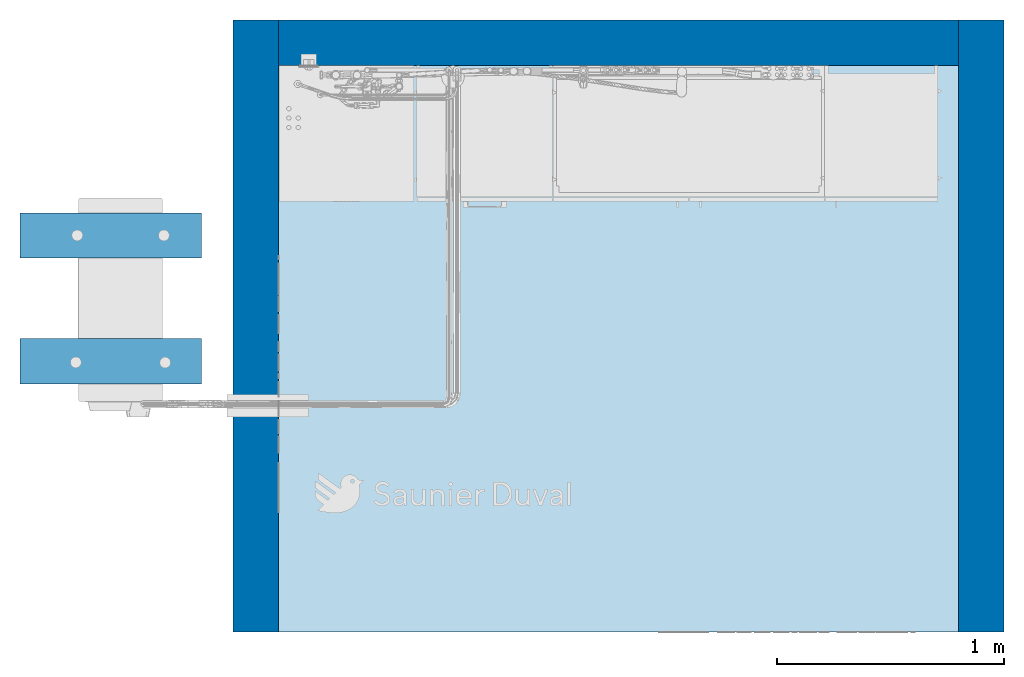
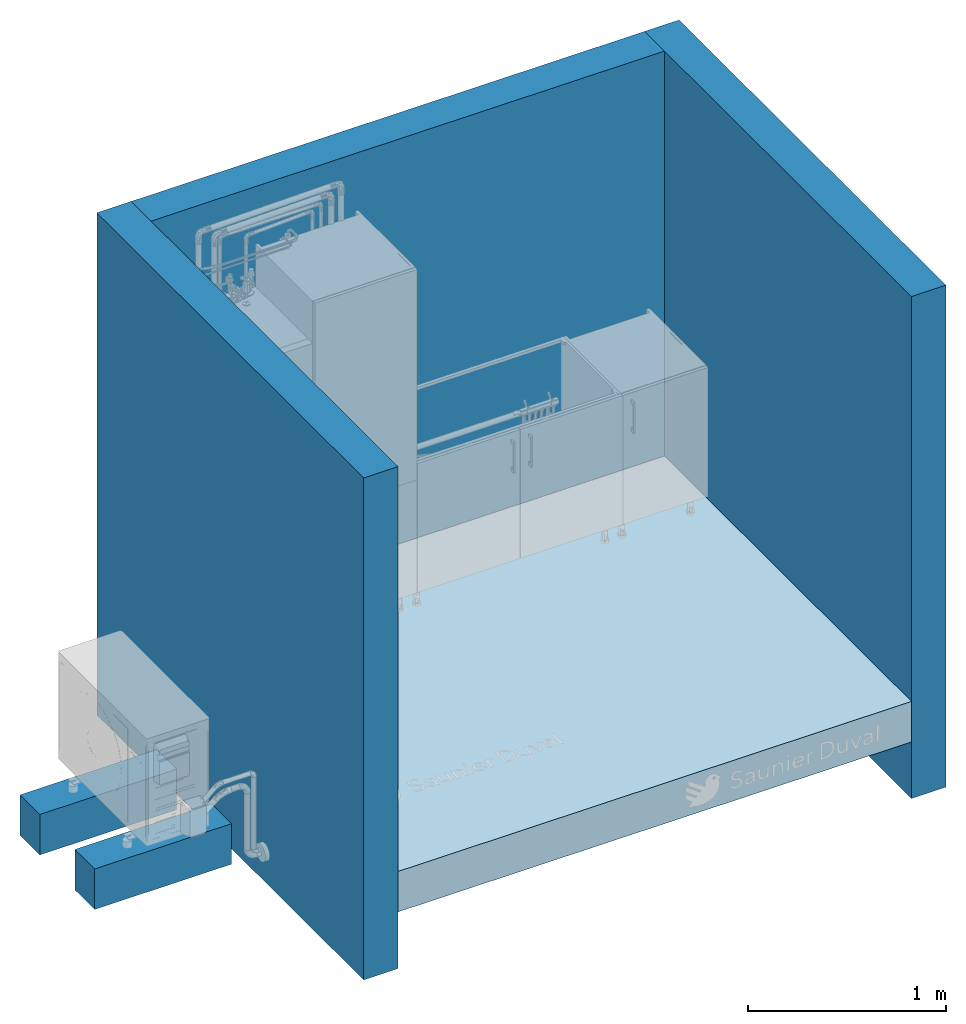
# One storey, part 1 of 30: 3 slabs, 3 walls, 2 openings.
"""IFC2X3 building model written with IfcOpenShell, lengths in metres."""

from ifc_helpers import new_model, entity, si_unit, converted_unit, derived_unit, direction, frame, frame_2d, origin, origin_2d_with_axis, place, context, subcontext, project, spatial, circle_curve, parameter, trimmed, segment, composite_curve, rectangle, circle, outline, extrude, material, layer, layer_set, layer_usage, type_object, element, save


model = new_model("IFC2X3")

# Units and contexts
model_context = context("Model", 3, precision=1e-05, world=origin(), true_north=direction((6.123031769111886e-17, 1.0)))
body_context = subcontext(model_context, "Body", "Model", "MODEL_VIEW")
ifc_project = project(units=[si_unit("LENGTHUNIT", "METRE"), si_unit("AREAUNIT", "SQUARE_METRE"), si_unit("VOLUMEUNIT", "CUBIC_METRE"), converted_unit("PLANEANGLEUNIT", "DEGREE", entity("IfcPlaneAngleMeasure", 0.017453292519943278), si_unit("PLANEANGLEUNIT", "RADIAN"), dimensions=[0, 0, 0, 0, 0, 0, 0]), si_unit("MASSUNIT", "GRAM", prefix="KILO"), derived_unit("MASSDENSITYUNIT", [(si_unit("MASSUNIT", "GRAM", prefix="KILO"), 1), (si_unit("LENGTHUNIT", "METRE"), -3)]), derived_unit("IONCONCENTRATIONUNIT", [(si_unit("MASSUNIT", "GRAM", prefix="KILO"), 1), (si_unit("LENGTHUNIT", "METRE"), -3)]), derived_unit("MOMENTOFINERTIAUNIT", [(si_unit("LENGTHUNIT", "METRE"), 4)]), si_unit("TIMEUNIT", "SECOND"), si_unit("FREQUENCYUNIT", "HERTZ"), si_unit("THERMODYNAMICTEMPERATUREUNIT", "DEGREE_CELSIUS"), derived_unit("THERMALTRANSMITTANCEUNIT", [(si_unit("MASSUNIT", "GRAM", prefix="KILO"), 1), (si_unit("THERMODYNAMICTEMPERATUREUNIT", "KELVIN"), -1), (si_unit("TIMEUNIT", "SECOND"), -3)]), derived_unit("THERMALCONDUCTANCEUNIT", [(si_unit("MASSUNIT", "GRAM", prefix="KILO"), 1), (si_unit("THERMODYNAMICTEMPERATUREUNIT", "KELVIN"), -1), (si_unit("TIMEUNIT", "SECOND"), -3), (si_unit("LENGTHUNIT", "METRE"), 1)]), derived_unit("VOLUMETRICFLOWRATEUNIT", [(si_unit("LENGTHUNIT", "METRE", prefix="DECI"), 3), (si_unit("TIMEUNIT", "SECOND"), -1)]), derived_unit("MASSFLOWRATEUNIT", [(si_unit("MASSUNIT", "GRAM", prefix="KILO"), 1), (si_unit("TIMEUNIT", "SECOND"), -1)]), derived_unit("ROTATIONALFREQUENCYUNIT", [(si_unit("TIMEUNIT", "SECOND"), -1)]), si_unit("ELECTRICCURRENTUNIT", "AMPERE"), si_unit("ELECTRICVOLTAGEUNIT", "VOLT"), si_unit("POWERUNIT", "WATT"), si_unit("FORCEUNIT", "NEWTON", prefix="KILO"), si_unit("ILLUMINANCEUNIT", "LUX"), si_unit("LUMINOUSFLUXUNIT", "LUMEN"), si_unit("LUMINOUSINTENSITYUNIT", "CANDELA"), si_unit("ENERGYUNIT", "JOULE"), derived_unit("USERDEFINED", [(si_unit("MASSUNIT", "GRAM", prefix="KILO"), -1), (si_unit("LENGTHUNIT", "METRE"), -2), (si_unit("TIMEUNIT", "SECOND"), 3), (si_unit("LUMINOUSFLUXUNIT", "LUMEN"), 1)]), derived_unit("USERDEFINED", [(si_unit("MASSUNIT", "GRAM", prefix="KILO"), 1), (si_unit("TIMEUNIT", "SECOND"), -3), (si_unit("LENGTHUNIT", "METRE"), 3), (si_unit("ELECTRICCURRENTUNIT", "AMPERE"), -2)]), derived_unit("SOUNDPOWERUNIT", [(si_unit("MASSUNIT", "GRAM", prefix="KILO"), 1), (si_unit("TIMEUNIT", "SECOND"), -3), (si_unit("LENGTHUNIT", "METRE"), 2)]), derived_unit("SOUNDPRESSUREUNIT", [(si_unit("MASSUNIT", "GRAM", prefix="KILO"), 1), (si_unit("LENGTHUNIT", "METRE"), -1), (si_unit("TIMEUNIT", "SECOND"), -2)]), derived_unit("LINEARVELOCITYUNIT", [(si_unit("LENGTHUNIT", "METRE"), 1), (si_unit("TIMEUNIT", "SECOND"), -1)]), si_unit("PRESSUREUNIT", "PASCAL"), derived_unit("USERDEFINED", [(si_unit("MASSUNIT", "GRAM", prefix="KILO"), 1), (si_unit("LENGTHUNIT", "METRE"), -2), (si_unit("TIMEUNIT", "SECOND"), -2)]), derived_unit("LINEARFORCEUNIT", [(si_unit("MASSUNIT", "GRAM", prefix="KILO"), 1), (si_unit("TIMEUNIT", "SECOND"), -2)]), derived_unit("PLANARFORCEUNIT", [(si_unit("MASSUNIT", "GRAM", prefix="KILO"), 1), (si_unit("LENGTHUNIT", "METRE"), -1), (si_unit("TIMEUNIT", "SECOND"), -2)]), derived_unit("SPECIFICHEATCAPACITYUNIT", [(si_unit("THERMODYNAMICTEMPERATUREUNIT", "KELVIN"), -1), (si_unit("LENGTHUNIT", "METRE"), 2), (si_unit("TIMEUNIT", "SECOND"), -2)]), derived_unit("HEATFLUXDENSITYUNIT", [(si_unit("MASSUNIT", "GRAM", prefix="KILO"), 1), (si_unit("TIMEUNIT", "SECOND"), -3)]), derived_unit("HEATINGVALUEUNIT", [(si_unit("LENGTHUNIT", "METRE"), 2), (si_unit("TIMEUNIT", "SECOND"), -2)]), derived_unit("VAPORPERMEABILITYUNIT", [(si_unit("LENGTHUNIT", "METRE"), -1), (si_unit("TIMEUNIT", "SECOND"), 1)]), derived_unit("DYNAMICVISCOSITYUNIT", [(si_unit("MASSUNIT", "GRAM", prefix="KILO"), 1), (si_unit("TIMEUNIT", "SECOND"), -1), (si_unit("LENGTHUNIT", "METRE"), -1)]), derived_unit("THERMALEXPANSIONCOEFFICIENTUNIT", [(si_unit("THERMODYNAMICTEMPERATUREUNIT", "KELVIN"), -1)]), derived_unit("MODULUSOFELASTICITYUNIT", [(si_unit("MASSUNIT", "GRAM", prefix="KILO"), 1), (si_unit("LENGTHUNIT", "METRE"), -1), (si_unit("TIMEUNIT", "SECOND"), -2)]), derived_unit("ISOTHERMALMOISTURECAPACITYUNIT", [(si_unit("MASSUNIT", "GRAM", prefix="KILO"), -1), (si_unit("LENGTHUNIT", "METRE"), 3)]), derived_unit("MOISTUREDIFFUSIVITYUNIT", [(si_unit("TIMEUNIT", "SECOND"), -1), (si_unit("LENGTHUNIT", "METRE"), 2)]), derived_unit("MASSPERLENGTHUNIT", [(si_unit("MASSUNIT", "GRAM", prefix="KILO"), 1), (si_unit("LENGTHUNIT", "METRE"), -1)]), derived_unit("THERMALRESISTANCEUNIT", [(si_unit("MASSUNIT", "GRAM", prefix="KILO"), -1), (si_unit("TIMEUNIT", "SECOND"), 3), (si_unit("THERMODYNAMICTEMPERATUREUNIT", "KELVIN"), 1)]), derived_unit("ACCELERATIONUNIT", [(si_unit("LENGTHUNIT", "METRE"), 1), (si_unit("TIMEUNIT", "SECOND"), -2)]), derived_unit("ANGULARVELOCITYUNIT", [(si_unit("TIMEUNIT", "SECOND"), -1), (si_unit("PLANEANGLEUNIT", "RADIAN"), 1)]), derived_unit("LINEARSTIFFNESSUNIT", [(si_unit("MASSUNIT", "GRAM", prefix="KILO"), 1), (si_unit("TIMEUNIT", "SECOND"), -2)]), derived_unit("WARPINGCONSTANTUNIT", [(si_unit("LENGTHUNIT", "METRE"), 6)]), derived_unit("LINEARMOMENTUNIT", [(si_unit("MASSUNIT", "GRAM", prefix="KILO"), 1), (si_unit("LENGTHUNIT", "METRE"), 1), (si_unit("TIMEUNIT", "SECOND"), -2)]), derived_unit("TORQUEUNIT", [(si_unit("MASSUNIT", "GRAM", prefix="KILO"), 1), (si_unit("LENGTHUNIT", "METRE"), 2), (si_unit("TIMEUNIT", "SECOND"), -2)])], contexts=[model_context])

# Site, building, storey
site_placement = place(None, origin())
site = spatial("IfcSite", under=ifc_project, at=site_placement, Name="Default", CompositionType="ELEMENT")
building_placement = place(site_placement, origin())
building = spatial("IfcBuilding", under=site, at=building_placement, CompositionType="ELEMENT")
storey_placement = place(building_placement, origin())
storey = spatial("IfcBuildingStorey", under=building, at=storey_placement, Name="Niveau 0", CompositionType="ELEMENT", Elevation=-1.949160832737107e-14)

# Slab, opening
ifc_material_1 = material(Name="Maçonnerie - Béton")
ifc_layer_1 = layer(ifc_material_1, 0.24999999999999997)
ifc_layer_set_1 = layer_set([ifc_layer_1], Name="Sol:Dalle en béton - 250 mm")
ifc_layer_usage_1 = layer_usage(ifc_layer_set_1, "AXIS3", "POSITIVE", 0.0)
slab_type = type_object("IfcSlabType", Name="Sol:Dalle en béton - 250 mm", PredefinedType="FLOOR", material=ifc_layer_set_1)
slab_1_placement = place(storey_placement, frame((-20.61554113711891, 0.36902647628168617, -0.25)))
slab_1 = element("IfcSlab", 1, at=slab_1_placement, inside=storey, type_object=slab_type, material=ifc_layer_usage_1, Name="Sol:Dalle en béton - 250 mm", ObjectType="Sol:Dalle en béton - 250 mm", PredefinedType="FLOOR", context=body_context, shape_type="SweptSolid", body=[
    extrude(rectangle(XDim=2.4994999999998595, YDim=2.9989999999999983, at=frame_2d((0.0, 0.0), x_axis=(0.0, 1.0))), frame((1.49950000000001, 1.2497499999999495, 0.24999999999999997), z_axis=(0.0, 0.0, -1.0), x_axis=(-1.0, 0.0, 0.0)), (0.0, 0.0, 1.0), 0.24999999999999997),
])
opening_1_placement = place(slab_1_placement, origin())
element("IfcOpeningElement", 2, at=opening_1_placement, cuts=slab_1, Name="Sol:Dalle en béton - 250 mm:634", ObjectType="Opening", context=body_context, shape_type="SweptSolid", body=[
    extrude(circle(Radius=0.04999999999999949, at=frame_2d((-3.4325337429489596e-30, -5.414335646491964e-16), x_axis=(1.0, 0.0))), frame((0.7692432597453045, 2.447860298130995, 0.24999999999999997), z_axis=(0.0, 0.0, -1.0), x_axis=(-1.0, 0.0, 0.0)), (0.0, 0.0, 1.0), 0.24999999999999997),
])

# Slabs
ifc_layer_usage_2 = layer_usage(ifc_layer_set_1, "AXIS3", "POSITIVE", 0.0)
slab_2_placement = place(storey_placement, origin())
element("IfcSlab", 3, at=slab_2_placement, inside=storey, type_object=slab_type, material=ifc_layer_usage_2, Name="Sol:Dalle en béton - 250 mm", ObjectType="Sol:Dalle en béton - 250 mm", PredefinedType="FLOOR", context=body_context, shape_type="SweptSolid", body=[
    extrude(rectangle(XDim=0.19999999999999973, YDim=0.8, at=frame_2d((4.0245584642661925e-16, -2.1649348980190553e-15), x_axis=(1.0, 0.0))), frame((-21.355885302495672, 2.1192559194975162, -0.24999999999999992), z_axis=(0.0, 0.0, -1.0), x_axis=(0.0, 1.0, 0.0)), (0.0, 0.0, 1.0), 0.24999999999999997),
])
ifc_layer_usage_3 = layer_usage(ifc_layer_set_1, "AXIS3", "POSITIVE", 0.0)
slab_3_placement = place(storey_placement, origin())
element("IfcSlab", 4, at=slab_3_placement, inside=storey, type_object=slab_type, material=ifc_layer_usage_3, Name="Sol:Dalle en béton - 250 mm", ObjectType="Sol:Dalle en béton - 250 mm", PredefinedType="FLOOR", context=body_context, shape_type="SweptSolid", body=[
    extrude(rectangle(XDim=0.19999999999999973, YDim=0.8, at=frame_2d((1.3877787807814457e-16, -2.1649348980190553e-15), x_axis=(1.0, 0.0))), frame((-21.35588530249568, 1.5642559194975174, -0.25), z_axis=(0.0, 0.0, -1.0), x_axis=(0.0, 1.0, 0.0)), (0.0, 0.0, 1.0), 0.25),
])

# Walls
ifc_material_2 = material(Name="Mur par défaut")
ifc_layer_2 = layer(ifc_material_2, 0.2)
ifc_material_3 = material(Name="Color RGB 255-255-255")
ifc_layer_3 = layer(ifc_material_3, 0.0009999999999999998)
ifc_layer_set_2 = layer_set([ifc_layer_2, ifc_layer_3], Name="Mur de base:Générique - Ext. 200 mm")
ifc_layer_usage_4 = layer_usage(ifc_layer_set_2, "AXIS2", "NEGATIVE", 0.1005)
wall_type = type_object("IfcWallType", Name="Mur de base:Générique - Ext. 200 mm", PredefinedType="STANDARD", material=ifc_layer_set_2)
wall_1_placement = place(storey_placement, frame((-17.51604113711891, 0.3690264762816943, -0.5999999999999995), z_axis=(0.0, 0.0, 1.0), x_axis=(0.0, 1.0, 0.0)))
element("IfcWallStandardCase", 5, at=wall_1_placement, inside=storey, type_object=wall_type, material=ifc_layer_usage_4, Name="Mur de base:Générique - Ext. 200 mm", ObjectType="Mur de base:Générique - Ext. 200 mm", context=body_context, shape_type="SweptSolid", body=[
    extrude(rectangle(XDim=2.700500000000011, YDim=0.20100000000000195, at=frame_2d((1.3502500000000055, -1.8041124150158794e-16), x_axis=(-1.0, 0.0))), origin(), (0.0, 0.0, 1.0), 3.1000000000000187),
])
ifc_layer_usage_5 = layer_usage(ifc_layer_set_2, "AXIS2", "POSITIVE", -0.1005)
wall_2_placement = place(storey_placement, frame((-20.716041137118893, 3.069526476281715, -0.5999999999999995), z_axis=(0.0, 0.0, 1.0), x_axis=(0.0, -1.0, 0.0)))
element("IfcWallStandardCase", 6, at=wall_2_placement, inside=storey, type_object=wall_type, material=ifc_layer_usage_5, Name="Mur de base:Générique - Ext. 200 mm", ObjectType="Mur de base:Générique - Ext. 200 mm", context=body_context, shape_type="SweptSolid", body=[
    extrude(rectangle(XDim=2.7005, YDim=0.20099999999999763, at=frame_2d((1.35025, -1.1102230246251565e-16), x_axis=(-1.0, 0.0))), origin(), (0.0, 0.0, 1.0), 3.1000000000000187),
])

# Wall, opening
ifc_layer_usage_6 = layer_usage(ifc_layer_set_2, "AXIS2", "NEGATIVE", 0.1005)
wall_3_placement = place(storey_placement, frame((-20.615541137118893, 2.9690264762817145, -0.6000000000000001)))
wall_3 = element("IfcWallStandardCase", 7, at=wall_3_placement, inside=storey, type_object=wall_type, material=ifc_layer_usage_6, Name="Mur de base:Générique - Ext. 200 mm", ObjectType="Mur de base:Générique - Ext. 200 mm", context=body_context, shape_type="SweptSolid", body=[
    extrude(rectangle(XDim=2.9990000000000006, YDim=0.2009999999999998, at=frame_2d((1.4995000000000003, 2.220446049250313e-16), x_axis=(-1.0, 0.0))), origin(), (0.0, 0.0, 1.0), 3.100000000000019),
])
opening_2_placement = place(wall_3_placement, origin())
element("IfcOpeningElement", 8, at=opening_2_placement, cuts=wall_3, Name="Mur de base:Générique - Ext. 200 mm", ObjectType="Recess", context=body_context, shape_type="SweptSolid", body=[
    extrude(outline(composite_curve([segment(trimmed(circle_curve(frame_2d((-0.0006000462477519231, 0.0), x_axis=(1.0, 0.0)), 0.03400558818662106), [parameter(88.98893376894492)], [parameter(271.01106623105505)], True, "PARAMETER"), True, "CONTINUOUS"), segment(trimmed(circle_curve(origin_2d_with_axis(), 0.03400029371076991), [parameter(269.99999999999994)], [parameter(90.00000000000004)], True, "PARAMETER"), True, "CONTINUOUS")], self_intersect=False)), frame((0.13367589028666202, -0.1004999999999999, 2.6505649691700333), z_axis=(0.0, 1.0, 0.0), x_axis=(-1.0, 0.0, 0.0)), (0.0, 0.0, 1.0), 0.05499999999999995),
])

save(model, "model.ifc")
